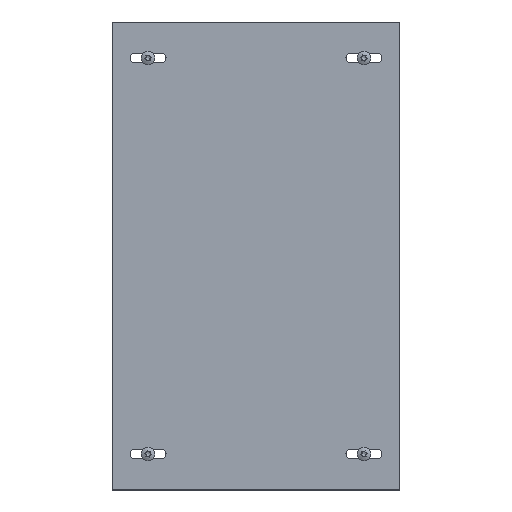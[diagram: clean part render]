
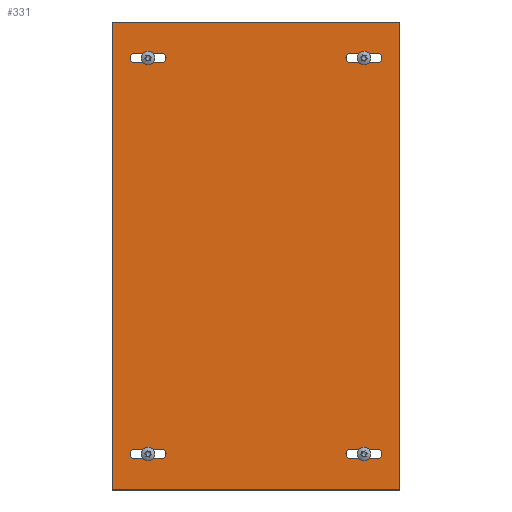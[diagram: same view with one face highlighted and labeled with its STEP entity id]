
A CAD part, top view. The second image highlights one B-rep face of the part: STEP entity #331.
In plain terms, the highlighted planar face has unit normal (0, 0, 1).
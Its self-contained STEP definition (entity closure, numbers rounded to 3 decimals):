
#55 = EDGE_CURVE('',#56,#58,#60,.T.);
#56 = VERTEX_POINT('',#57);
#57 = CARTESIAN_POINT('',(-100.,162.5,0.));
#58 = VERTEX_POINT('',#59);
#59 = CARTESIAN_POINT('',(-100.,-162.5,0.));
#60 = LINE('',#61,#62);
#61 = CARTESIAN_POINT('',(-100.,-162.5,0.));
#62 = VECTOR('',#63,1.);
#63 = DIRECTION('',(-0.,-1.,-0.));
#95 = EDGE_CURVE('',#96,#56,#98,.T.);
#96 = VERTEX_POINT('',#97);
#97 = CARTESIAN_POINT('',(100.,162.5,0.));
#98 = LINE('',#99,#100);
#99 = CARTESIAN_POINT('',(100.,162.5,0.));
#100 = VECTOR('',#101,1.);
#101 = DIRECTION('',(-1.,0.,0.));
#126 = EDGE_CURVE('',#127,#96,#129,.T.);
#127 = VERTEX_POINT('',#128);
#128 = CARTESIAN_POINT('',(100.,-162.5,0.));
#129 = LINE('',#130,#131);
#130 = CARTESIAN_POINT('',(100.,-162.5,0.));
#131 = VECTOR('',#132,1.);
#132 = DIRECTION('',(0.,1.,0.));
#157 = EDGE_CURVE('',#58,#127,#158,.T.);
#158 = LINE('',#159,#160);
#159 = CARTESIAN_POINT('',(100.,-162.5,0.));
#160 = VECTOR('',#161,1.);
#161 = DIRECTION('',(1.,-0.,-0.));
#331 = ADVANCED_FACE('',(#332,#368,#404,#440,#476),#482,.T.);
#332 = FACE_BOUND('',#333,.T.);
#333 = EDGE_LOOP('',(#334,#345,#353,#362));
#334 = ORIENTED_EDGE('',*,*,#335,.F.);
#335 = EDGE_CURVE('',#336,#338,#340,.T.);
#336 = VERTEX_POINT('',#337);
#337 = CARTESIAN_POINT('',(-65.75,-140.75,0.));
#338 = VERTEX_POINT('',#339);
#339 = CARTESIAN_POINT('',(-65.75,-134.25,0.));
#340 = CIRCLE('',#341,3.25);
#341 = AXIS2_PLACEMENT_3D('',#342,#343,#344);
#342 = CARTESIAN_POINT('',(-65.75,-137.5,0.));
#343 = DIRECTION('',(0.,0.,1.));
#344 = DIRECTION('',(1.,0.,-0.));
#345 = ORIENTED_EDGE('',*,*,#346,.F.);
#346 = EDGE_CURVE('',#347,#336,#349,.T.);
#347 = VERTEX_POINT('',#348);
#348 = CARTESIAN_POINT('',(-84.25,-140.75,0.));
#349 = LINE('',#350,#351);
#350 = CARTESIAN_POINT('',(-65.75,-140.75,0.));
#351 = VECTOR('',#352,1.);
#352 = DIRECTION('',(1.,-0.,-0.));
#353 = ORIENTED_EDGE('',*,*,#354,.F.);
#354 = EDGE_CURVE('',#355,#347,#357,.T.);
#355 = VERTEX_POINT('',#356);
#356 = CARTESIAN_POINT('',(-84.25,-134.25,0.));
#357 = CIRCLE('',#358,3.25);
#358 = AXIS2_PLACEMENT_3D('',#359,#360,#361);
#359 = CARTESIAN_POINT('',(-84.25,-137.5,0.));
#360 = DIRECTION('',(0.,0.,1.));
#361 = DIRECTION('',(1.,0.,-0.));
#362 = ORIENTED_EDGE('',*,*,#363,.F.);
#363 = EDGE_CURVE('',#338,#355,#364,.T.);
#364 = LINE('',#365,#366);
#365 = CARTESIAN_POINT('',(-65.75,-134.25,0.));
#366 = VECTOR('',#367,1.);
#367 = DIRECTION('',(-1.,0.,0.));
#368 = FACE_BOUND('',#369,.T.);
#369 = EDGE_LOOP('',(#370,#381,#389,#398));
#370 = ORIENTED_EDGE('',*,*,#371,.F.);
#371 = EDGE_CURVE('',#372,#374,#376,.T.);
#372 = VERTEX_POINT('',#373);
#373 = CARTESIAN_POINT('',(-65.75,134.25,0.));
#374 = VERTEX_POINT('',#375);
#375 = CARTESIAN_POINT('',(-65.75,140.75,0.));
#376 = CIRCLE('',#377,3.25);
#377 = AXIS2_PLACEMENT_3D('',#378,#379,#380);
#378 = CARTESIAN_POINT('',(-65.75,137.5,0.));
#379 = DIRECTION('',(0.,0.,1.));
#380 = DIRECTION('',(-1.,0.,0.));
#381 = ORIENTED_EDGE('',*,*,#382,.F.);
#382 = EDGE_CURVE('',#383,#372,#385,.T.);
#383 = VERTEX_POINT('',#384);
#384 = CARTESIAN_POINT('',(-84.25,134.25,0.));
#385 = LINE('',#386,#387);
#386 = CARTESIAN_POINT('',(-65.75,134.25,0.));
#387 = VECTOR('',#388,1.);
#388 = DIRECTION('',(1.,-0.,-0.));
#389 = ORIENTED_EDGE('',*,*,#390,.F.);
#390 = EDGE_CURVE('',#391,#383,#393,.T.);
#391 = VERTEX_POINT('',#392);
#392 = CARTESIAN_POINT('',(-84.25,140.75,0.));
#393 = CIRCLE('',#394,3.25);
#394 = AXIS2_PLACEMENT_3D('',#395,#396,#397);
#395 = CARTESIAN_POINT('',(-84.25,137.5,0.));
#396 = DIRECTION('',(0.,0.,1.));
#397 = DIRECTION('',(-1.,0.,0.));
#398 = ORIENTED_EDGE('',*,*,#399,.F.);
#399 = EDGE_CURVE('',#374,#391,#400,.T.);
#400 = LINE('',#401,#402);
#401 = CARTESIAN_POINT('',(-65.75,140.75,0.));
#402 = VECTOR('',#403,1.);
#403 = DIRECTION('',(-1.,0.,0.));
#404 = FACE_BOUND('',#405,.T.);
#405 = EDGE_LOOP('',(#406,#417,#425,#434));
#406 = ORIENTED_EDGE('',*,*,#407,.F.);
#407 = EDGE_CURVE('',#408,#410,#412,.T.);
#408 = VERTEX_POINT('',#409);
#409 = CARTESIAN_POINT('',(65.75,140.75,0.));
#410 = VERTEX_POINT('',#411);
#411 = CARTESIAN_POINT('',(65.75,134.25,0.));
#412 = CIRCLE('',#413,3.25);
#413 = AXIS2_PLACEMENT_3D('',#414,#415,#416);
#414 = CARTESIAN_POINT('',(65.75,137.5,0.));
#415 = DIRECTION('',(0.,0.,1.));
#416 = DIRECTION('',(1.,0.,-0.));
#417 = ORIENTED_EDGE('',*,*,#418,.F.);
#418 = EDGE_CURVE('',#419,#408,#421,.T.);
#419 = VERTEX_POINT('',#420);
#420 = CARTESIAN_POINT('',(84.25,140.75,0.));
#421 = LINE('',#422,#423);
#422 = CARTESIAN_POINT('',(65.75,140.75,0.));
#423 = VECTOR('',#424,1.);
#424 = DIRECTION('',(-1.,-0.,-0.));
#425 = ORIENTED_EDGE('',*,*,#426,.F.);
#426 = EDGE_CURVE('',#427,#419,#429,.T.);
#427 = VERTEX_POINT('',#428);
#428 = CARTESIAN_POINT('',(84.25,134.25,0.));
#429 = CIRCLE('',#430,3.25);
#430 = AXIS2_PLACEMENT_3D('',#431,#432,#433);
#431 = CARTESIAN_POINT('',(84.25,137.5,0.));
#432 = DIRECTION('',(0.,0.,1.));
#433 = DIRECTION('',(1.,0.,-0.));
#434 = ORIENTED_EDGE('',*,*,#435,.F.);
#435 = EDGE_CURVE('',#410,#427,#436,.T.);
#436 = LINE('',#437,#438);
#437 = CARTESIAN_POINT('',(65.75,134.25,0.));
#438 = VECTOR('',#439,1.);
#439 = DIRECTION('',(1.,0.,0.));
#440 = FACE_BOUND('',#441,.T.);
#441 = EDGE_LOOP('',(#442,#453,#461,#470));
#442 = ORIENTED_EDGE('',*,*,#443,.F.);
#443 = EDGE_CURVE('',#444,#446,#448,.T.);
#444 = VERTEX_POINT('',#445);
#445 = CARTESIAN_POINT('',(65.75,-134.25,0.));
#446 = VERTEX_POINT('',#447);
#447 = CARTESIAN_POINT('',(65.75,-140.75,0.));
#448 = CIRCLE('',#449,3.25);
#449 = AXIS2_PLACEMENT_3D('',#450,#451,#452);
#450 = CARTESIAN_POINT('',(65.75,-137.5,0.));
#451 = DIRECTION('',(0.,0.,1.));
#452 = DIRECTION('',(-1.,0.,0.));
#453 = ORIENTED_EDGE('',*,*,#454,.F.);
#454 = EDGE_CURVE('',#455,#444,#457,.T.);
#455 = VERTEX_POINT('',#456);
#456 = CARTESIAN_POINT('',(84.25,-134.25,0.));
#457 = LINE('',#458,#459);
#458 = CARTESIAN_POINT('',(65.75,-134.25,0.));
#459 = VECTOR('',#460,1.);
#460 = DIRECTION('',(-1.,-0.,-0.));
#461 = ORIENTED_EDGE('',*,*,#462,.F.);
#462 = EDGE_CURVE('',#463,#455,#465,.T.);
#463 = VERTEX_POINT('',#464);
#464 = CARTESIAN_POINT('',(84.25,-140.75,0.));
#465 = CIRCLE('',#466,3.25);
#466 = AXIS2_PLACEMENT_3D('',#467,#468,#469);
#467 = CARTESIAN_POINT('',(84.25,-137.5,0.));
#468 = DIRECTION('',(0.,0.,1.));
#469 = DIRECTION('',(-1.,0.,0.));
#470 = ORIENTED_EDGE('',*,*,#471,.F.);
#471 = EDGE_CURVE('',#446,#463,#472,.T.);
#472 = LINE('',#473,#474);
#473 = CARTESIAN_POINT('',(65.75,-140.75,0.));
#474 = VECTOR('',#475,1.);
#475 = DIRECTION('',(1.,0.,0.));
#476 = FACE_BOUND('',#477,.T.);
#477 = EDGE_LOOP('',(#478,#479,#480,#481));
#478 = ORIENTED_EDGE('',*,*,#55,.T.);
#479 = ORIENTED_EDGE('',*,*,#157,.T.);
#480 = ORIENTED_EDGE('',*,*,#126,.T.);
#481 = ORIENTED_EDGE('',*,*,#95,.T.);
#482 = PLANE('',#483);
#483 = AXIS2_PLACEMENT_3D('',#484,#485,#486);
#484 = CARTESIAN_POINT('',(0.,0.,0.));
#485 = DIRECTION('',(0.,-0.,1.));
#486 = DIRECTION('',(1.,0.,0.));
